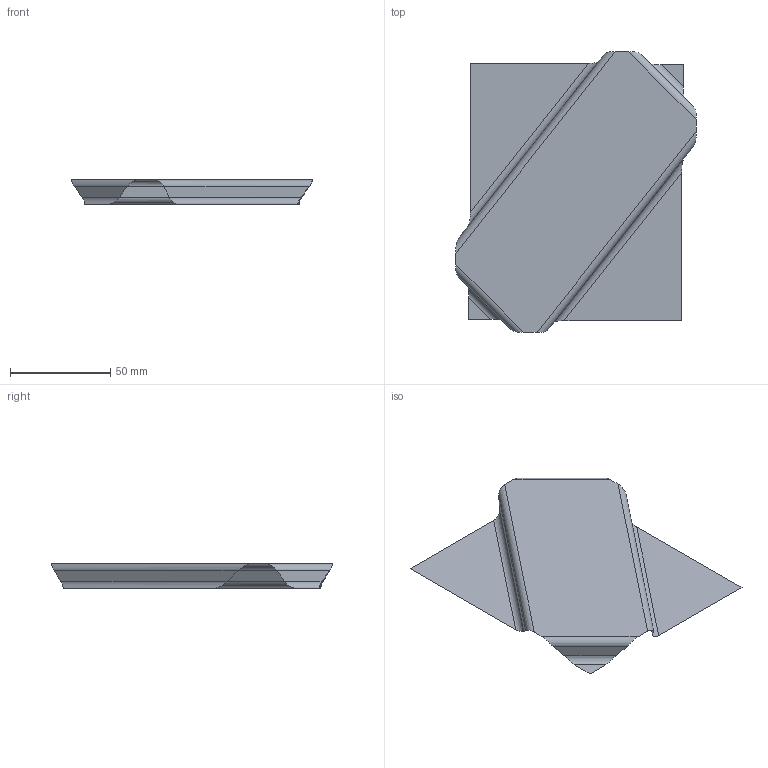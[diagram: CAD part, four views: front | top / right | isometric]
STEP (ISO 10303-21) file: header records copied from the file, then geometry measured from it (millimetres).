
FILE_DESCRIPTION(('CATIA V5 STEP Exchange'),'2;1');
FILE_NAME('C:\_Andres\UNIVERSIDAD\IQS\ASIGNATURAS\DAO\EXF\EXF-15161c\1original\Garcia_Granada_Ej03-chapa_v30.stp','2016-03-04T16:56:22+00:00',('none'),('none'),'CATIA Version 5 Release 20 SP 1 (IN-10)','CATIA V5 STEP AP203','none');
FILE_SCHEMA(('CONFIG_CONTROL_DESIGN'));
Length unit declared in the file: millimetre
Products named in the file (1): Garcia_Granada_Ej03-chapa_v30
Bounding box: 120.01 x 140.01 x 12.29 mm (x, y, z)
Surface area: 16849.9 mm2 (no closed solid volume)
Topology: 0 solids, 1 shells, 17 faces, 52 edges, 36 vertices
Faces by surface type: plane 9, cylinder 8
Entity records: 627 total; most frequent: CARTESIAN_POINT 198, ORIENTED_EDGE 68, DIRECTION 61, EDGE_CURVE 52, VERTEX_POINT 36, B_SPLINE_CURVE_WITH_KNOTS 27, VECTOR 25, LINE 25
